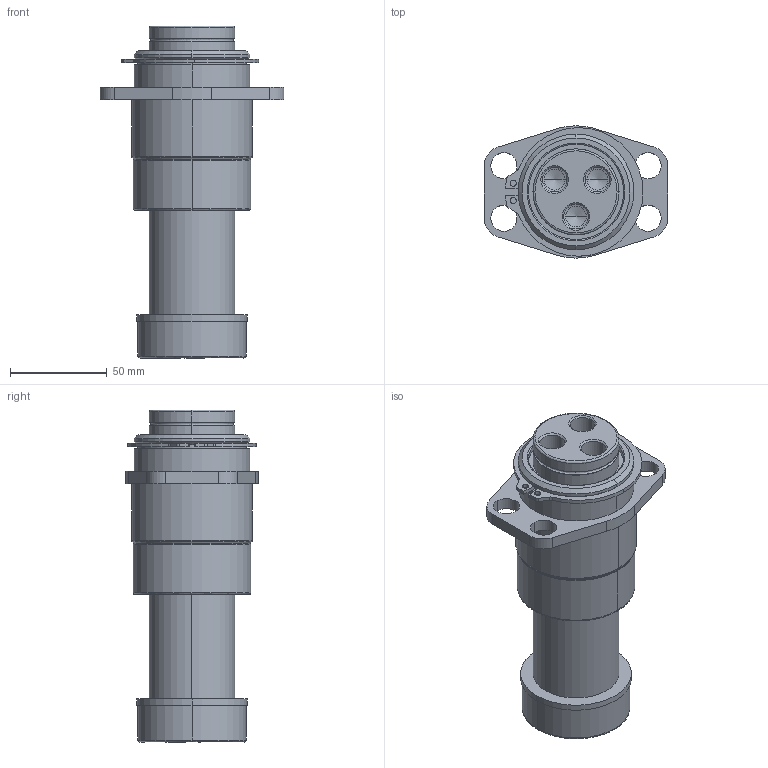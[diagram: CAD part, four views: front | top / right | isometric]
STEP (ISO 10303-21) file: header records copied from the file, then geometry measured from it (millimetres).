
FILE_DESCRIPTION (( 'STEP AP214' ), '1' );
FILE_NAME ('GK180-N3-1-TB-E-XXX.STEP', '2020-09-22T11:26:57', ( '' ), ( '' ), 'SwSTEP 2.0', 'SolidWorks 2017', '' );
FILE_SCHEMA (( 'AUTOMOTIVE_DESIGN' ));
Length unit declared in the file: inch
Products named in the file (7): GK1.75-N3-1-TB-Base; GK180-E-XXX-GuidePin; GK180-N3-1-TB-E-XXX; GK180-DampeningWasher; RetainingRing
Assembly tree (6 placements, depth 3):
  GK180-N3-1-TB-E-XXX
    GK1.75-N3-1-TB-Base
      GK1.75-N3-1-TB-Base
      RetainingRing
    GK180-E-XXX-GuidePin
      GK180-E-XXX-GuidePin
      GK180-DampeningWasher
Bounding box: 94.79 x 68.33 x 171.45 mm (x, y, z)
Volume: 396878.8 mm3; surface area: 74634.7 mm2
Topology: 4 solids, 4 shells, 135 faces, 313 edges, 189 vertices
Faces by surface type: cylinder 65, plane 26, cone 24, bspline 20
Entity records: 4727 total; most frequent: CARTESIAN_POINT 1192, DIRECTION 721, ORIENTED_EDGE 614, EDGE_CURVE 307, AXIS2_PLACEMENT_3D 298, VERTEX_POINT 189, CIRCLE 172, EDGE_LOOP 160
